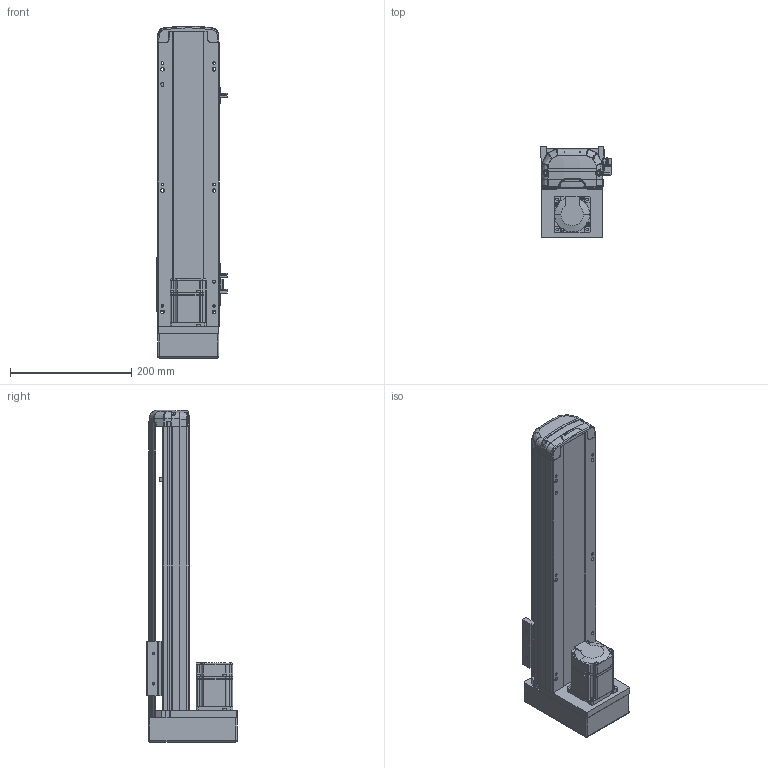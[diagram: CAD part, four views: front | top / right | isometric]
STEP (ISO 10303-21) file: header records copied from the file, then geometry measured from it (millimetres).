
FILE_DESCRIPTION (( 'STEP AP214' ), '1' );
FILE_NAME ('RTH10-XX-300-M-M20-C4.STEP', '2025-10-25T04:04:23', ( 'Microsoft' ), ( 'Microsoft' ), 'SwSTEP 2.0', 'SolidWorks 2018', '' );
FILE_SCHEMA (( 'AUTOMOTIVE_DESIGN' ));
Length unit declared in the file: millimetre
Products named in the file (10): N_RTH12-M-018-裔赽^RTH10-XX-XX-M-M20-C4; N_OMRON EE-SX672 传感器^RTH10-XX-XX-M-M20-C4; N_RTH12-GY-001P^RTH10-XX-XX-M-M20-C4; RTH10-XX-300-M-M20-C4; N_RTH12-M-008-萇儂啣^RTH10-XX-XX-M-M20-C4; N_RTH13-L-012覜茼え俋离^RTH10-XX-XX-M-M20-C4; N_RTH12-M-007P-奻裔^RTH10-XX-XX-M-M20-C4; N_RTH12-M-011P-臏倰第菁釱^RTH10-XX-XX-M-M20-C4; N_RTH12-GY-004-賑釱^RTH10-XX-XX-M-M20-C4; N_200W-1^RTH10-XX-XX-M-M20-C4
Assembly tree (11 placements, depth 2):
  RTH10-XX-300-M-M20-C4
    N_RTH12-M-011P-臏倰第菁釱^RTH10-XX-XX-M-M20-C4
    N_RTH13-L-012覜茼え俋离^RTH10-XX-XX-M-M20-C4
    N_OMRON EE-SX672 传感器^RTH10-XX-XX-M-M20-C4  x3
    N_200W-1^RTH10-XX-XX-M-M20-C4
    N_RTH12-M-007P-奻裔^RTH10-XX-XX-M-M20-C4
    N_RTH12-M-008-萇儂啣^RTH10-XX-XX-M-M20-C4
    N_RTH12-M-018-裔赽^RTH10-XX-XX-M-M20-C4
    N_RTH12-GY-004-賑釱^RTH10-XX-XX-M-M20-C4
    N_RTH12-GY-001P^RTH10-XX-XX-M-M20-C4
Bounding box: 116.5 x 149 x 547.31 mm (x, y, z)
Volume: 2977247.8 mm3; surface area: 447312.8 mm2
Topology: 10 solids, 12 shells, 1949 faces, 5416 edges, 3555 vertices
Faces by surface type: plane 983, bspline 472, cylinder 459, cone 29, sphere 4, torus 2
Entity records: 58302 total; most frequent: CARTESIAN_POINT 23011, ORIENTED_EDGE 7904, DIRECTION 6086, EDGE_CURVE 3958, VERTEX_POINT 2599, VECTOR 2146, LINE 2146, AXIS2_PLACEMENT_3D 1970
